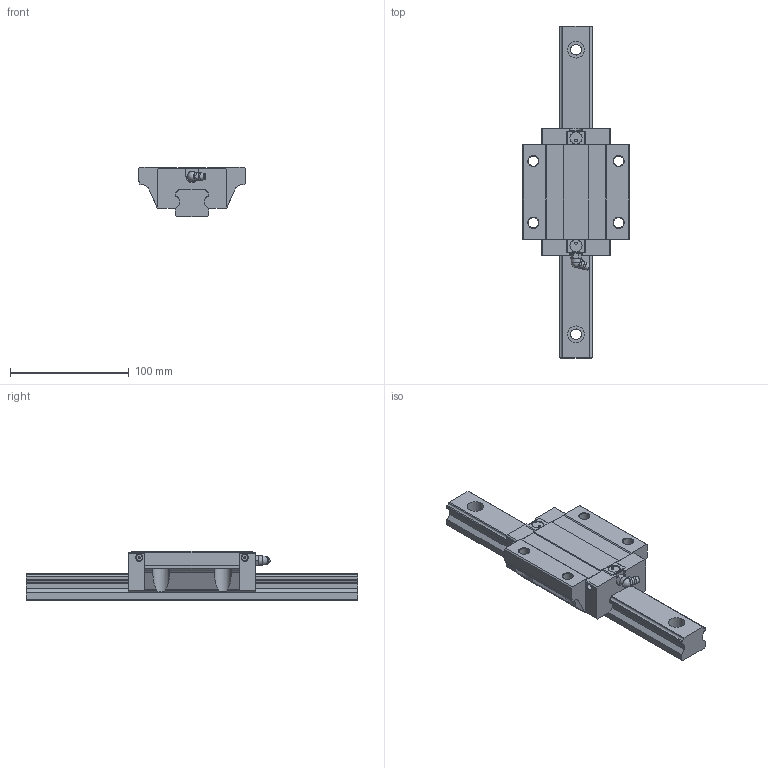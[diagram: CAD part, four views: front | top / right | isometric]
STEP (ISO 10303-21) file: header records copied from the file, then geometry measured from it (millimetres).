
FILE_DESCRIPTION(/* description */ (''),/* implementation_level */ '2;1');
FILE_NAME(/* name */ 'SME30-EA',/* time_stamp */ '2008-10-06T09:58:20+08:00',/* author */ (''),/* organization */ (''),/* preprocessor_version */ 'ST-DEVELOPER v11',/* originating_system */ 'UGS - NX 5.0',/* authorisation */ '');
FILE_SCHEMA (('AUTOMOTIVE_DESIGN { 1 0 10303 214 1 1 1 1 }'));
Length unit declared in the file: millimetre
Products named in the file (1): SME30EA_UG
Bounding box: 90 x 280 x 42 mm (x, y, z)
Volume: 369741.7 mm3; surface area: 68328.6 mm2
Topology: 3 solids, 3 shells, 221 faces, 588 edges, 389 vertices
Faces by surface type: plane 145, cylinder 57, cone 9, torus 7, sphere 2, bspline 1
Full cylindrical faces by diameter (mm): 1.5 x4, 2 x2, 5.2 x4, 8 x1, 8.5 x4, 9 x4, 10.2 x2, 14 x4
Entity records: 7029 total; most frequent: CARTESIAN_POINT 1356, DIRECTION 1100, ORIENTED_EDGE 1082, EDGE_CURVE 541, VERTEX_POINT 380, AXIS2_PLACEMENT_3D 372, LINE 356, VECTOR 356
